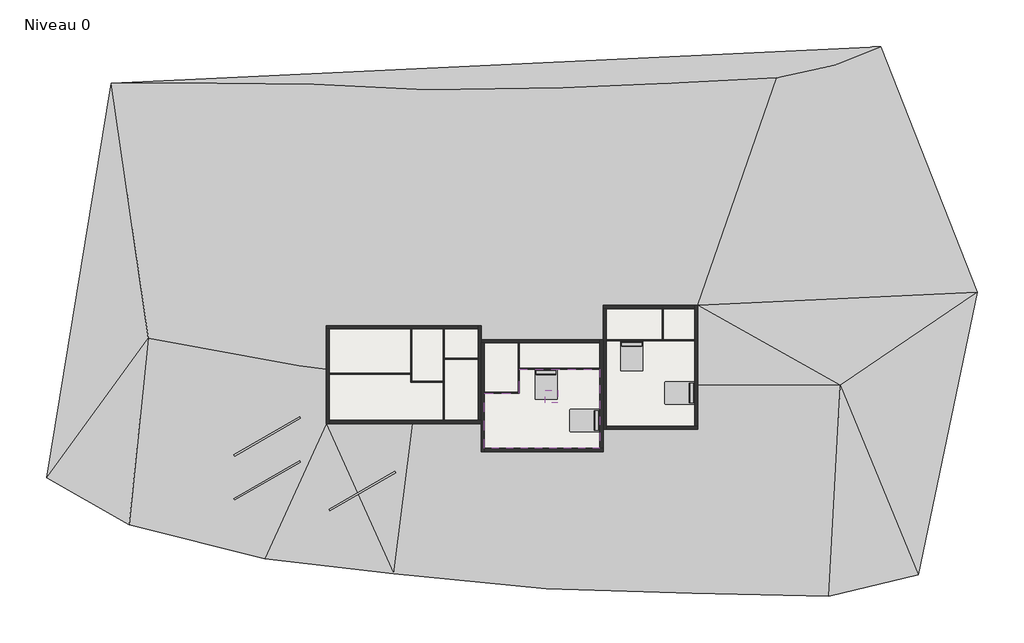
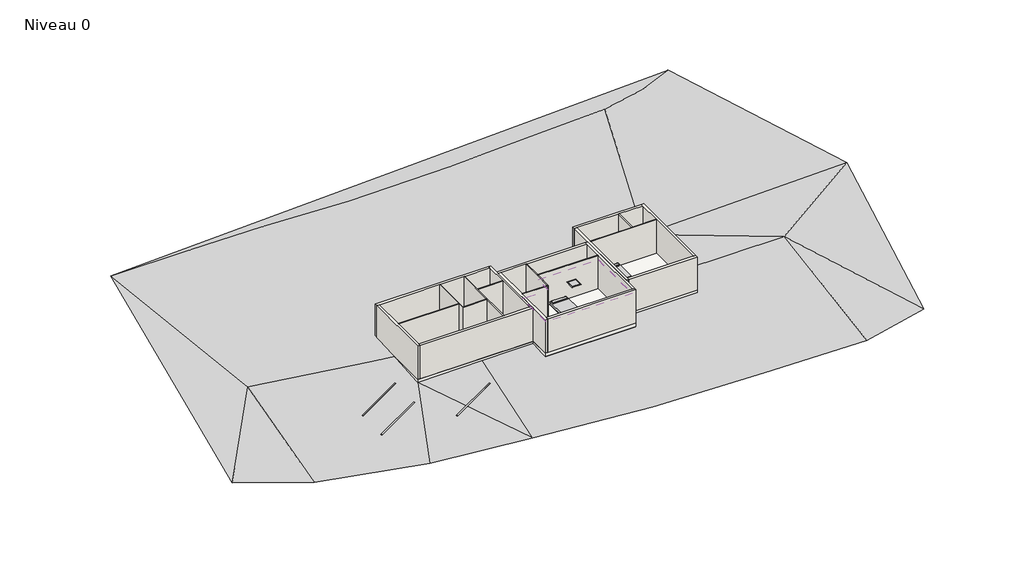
# One storey, incomplete: 22 walls, 5 proxies, 4 furniture elements, 1 covering, 1 slab.
"""IFC4 building model written with IfcOpenShell, lengths in millimetres."""

from ifc_helpers import new_model, si_unit, frame, origin, origin_with_axes, place, context, project, spatial, polyline, outline, extrude, faceted_brep, triangles, transform, mapped, element, save
from components import place_de_parking_5b8ad055, type_1_b38d5ac5, mob_lit_double_pmr_843ff842

model = new_model("IFC4")

# Units and contexts
model_context = context("Model", 3, world=origin())
ifc_project = project(units=[si_unit("LENGTHUNIT", "METRE", prefix="MILLI")], contexts=[model_context])

# Site, building, storey
site = spatial("IfcSite", under=ifc_project)
building = spatial("IfcBuilding", under=site)
storey = spatial("IfcBuildingStorey", under=building, Name="Niveau 0", Elevation=0.0)

# Proxies
placement = place(None, origin())
element("IfcBuildingElementProxy", 1, Name="Building Element Proxy", at=placement, inside=storey, context=model_context, shape_type="Tessellation", body=[
    triangles([(30189.0572937, 3729.3496902, 0.0), (24058.6291626, 19263.7416046, 1000.0000076), (-24568.1841064, 16942.5100342, 1000.0000076), (-28674.9776184, -7995.8421753, -1000.0000076), (-23437.3275513, -10971.7791321, -1000.0000076), (-14866.6286041, -13114.4541595, -1000.0000076), (-6712.561203, -14066.7541718, -1000.0000076), (2929.4749672, -15019.054184, -1000.0000076), (12154.8801727, -15316.6476471, -1000.0000076), (20785.0964172, -15495.2041901, -1000.0000076), (26439.3768677, -14126.2726318, -1000.0000076), (-1185.4947172, 1612.0061108, 190.8392053), (-1185.4947172, 727.4736917, 143.497918), (6514.5052689, 727.4736917, 150.2986657), (6514.5052689, 2898.5986542, 266.499994), (9481.9386749, 2898.5986542, 269.1208733), (11279.4184937, 2898.5986542, 264.9289598), (12514.5047333, 2898.5986542, 261.5638128), (12514.5047333, 1121.0185656, 168.7348859), (12514.5047333, -2163.0057632, 0.0), (12514.5047333, -4941.575116, -211.2395408), (11638.4733215, -4941.575116, -211.2395408), (9647.794249, -4941.575116, -216.1293404), (6514.5052689, -4941.575116, -220.1074769), (6514.5052689, -6348.785733, -328.3754142), (-1185.4947172, -6348.785733, -338.1516343), (-1185.4947172, -4579.7207497, -202.0433906), (-3505.7781624, -4579.7207497, -204.9893045), (-5507.0969925, -4579.7207497, -221.0181408), (-10985.494574, -4579.7207497, -278.0983413), (-10985.494574, -1137.3242563, 0.0), (-10985.494574, 1612.0061108, 148.7494688), (-5063.2572235, 1612.0061108, 190.0740812), (-3434.0668419, 1612.0061108, 188.8532255), (-22246.9536987, 812.9312662, 0.0), (-12723.9535767, -913.1122152, 0.0), (21499.3225891, -2163.0057632, 0.0), (-17902.0851837, 16942.5100342, 1000.0000076), (-11771.6547272, 16882.9915741, 1000.0000076), (-4629.405217, 16525.8784882, 1000.0000076), (4000.8121902, 16644.916571, 1000.0000076), (10666.9116943, 16942.5100342, 1000.0000076), (17511.5659973, 17299.6231201, 1000.0000076), (21142.2095032, 18073.3665894, 1000.0000076)], [[5, 6, 30], [4, 5, 35], [30, 36, 5], [31, 36, 30], [6, 7, 30], [7, 8, 26], [7, 26, 29], [26, 28, 29], [28, 26, 27], [7, 29, 30], [38, 35, 32], [36, 35, 5], [35, 38, 3], [39, 38, 32], [38, 39, 2], [3, 38, 2], [32, 35, 36], [35, 3, 4], [31, 32, 36], [32, 33, 40], [40, 34, 12], [34, 40, 33], [41, 40, 12], [12, 13, 14], [32, 40, 39], [39, 40, 41], [26, 8, 25], [23, 9, 22], [9, 23, 25], [23, 24, 25], [14, 15, 12], [21, 9, 10], [37, 10, 11], [20, 21, 37], [37, 21, 10], [11, 1, 37], [21, 22, 9], [25, 8, 9], [19, 20, 37], [15, 16, 42], [15, 42, 41], [42, 16, 17], [42, 17, 18], [41, 42, 2], [41, 12, 15], [37, 18, 19], [18, 37, 1], [18, 1, 43], [43, 44, 2], [44, 43, 1], [2, 44, 1], [43, 2, 42], [18, 43, 42], [41, 2, 39]], closed=False),
])
place_de_parking_shape = place_de_parking_5b8ad055(model_context)
element("IfcBuildingElementProxy", 2, Name="Place de parking : 4,8m x 2,4m - 60°", ObjectType="Place de parking : 4,8m x 2,4m - 60°", at=placement, inside=storey, context=model_context, shape_type="MappedRepresentation", body=[
    mapped(place_de_parking_shape, transform((-16804.0440092, -9364.4202092, 0.0), x_axis=(0.0, 1.0000000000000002, 0.0), y_axis=(-1.0000000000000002, 0.0, 0.0), z_axis=(0.0, 0.0, 1.0))),
])
element("IfcBuildingElementProxy", 3, Name="Place de parking : 4,8m x 2,4m - 60°", ObjectType="Place de parking : 4,8m x 2,4m - 60°", at=placement, inside=storey, context=model_context, shape_type="MappedRepresentation", body=[
    mapped(place_de_parking_shape, transform((-16804.0440092, -6593.4202092, 0.0), x_axis=(0.0, 1.0000000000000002, 0.0), y_axis=(-1.0000000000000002, 0.0, 0.0), z_axis=(0.0, 0.0, 1.0))),
])
element("IfcBuildingElementProxy", 4, Name="Place de parking : 4,8m x 2,4m - 60°", ObjectType="Place de parking : 4,8m x 2,4m - 60°", at=placement, inside=storey, context=model_context, shape_type="MappedRepresentation", body=[
    mapped(place_de_parking_shape, transform((-10785.4947256, -10042.5262978, 0.0), x_axis=(0.0, 1.0000000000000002, 0.0), y_axis=(-1.0000000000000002, 0.0, 0.0), z_axis=(0.0, 0.0, 1.0))),
])
type_1_shape = type_1_b38d5ac5(model_context)
element("IfcBuildingElementProxy", 5, Name="Trappe d'accès en plafond : Type 1", ObjectType="Trappe d'accès en plafond : Type 1", at=placement, inside=storey, context=model_context, shape_type="MappedRepresentation", body=[
    mapped(type_1_shape, transform((3264.5052744, -2872.5262978, -1400.0), x_axis=(1.0, 0.0, 0.0), y_axis=(0.0, 1.0, 0.0), z_axis=(0.0, 0.0, 1.0))),
])

# Covering
element("IfcCovering", 6, ObjectType="Plafond avec isolation", at=placement, inside=storey, context=model_context, shape_type="SweptSolid", body=[
    extrude(outline(polyline([(-985.4947256, -6148.7856024), (-985.4947256, -2672.5262978), (1214.5052744, -2672.5262978), (1214.5052744, -1142.5262978), (6314.5052744, -1142.5262978), (6314.5052744, -6148.7856024), (-985.4947256, -6148.7856024)]), holes=[polyline([(3664.5052744, -2472.5262978), (2864.5052744, -2472.5262978), (2864.5052744, -3272.5262978), (3664.5052744, -3272.5262978), (3664.5052744, -2472.5262978)])]), frame((0.0, 0.0, 2600.0), z_axis=(0.0, 0.0, 1.0), x_axis=(1.0, 0.0, 0.0)), (0.0, 0.0, 1.0), 70.0),
])

# Furniture
mob_lit_double_pmr_shape = mob_lit_double_pmr_843ff842(model_context)
element("IfcFurniture", 7, ObjectType="MOB- LIT DOUBLE PMR : 190x140 cm _V1+symboles", at=placement, inside=storey, context=model_context, shape_type="MappedRepresentation", body=[
    mapped(mob_lit_double_pmr_shape, transform((2643.0167498, -2046.9312159, -300.1595272), x_axis=(1.0, 0.0, 0.0), y_axis=(0.0, 1.0, 0.0), z_axis=(0.0, 0.0, 1.0))),
])
element("IfcFurniture", 8, ObjectType="MOB- LIT DOUBLE PMR : 190x140 cm _V2+symboles", at=placement, inside=storey, context=model_context, shape_type="MappedRepresentation", body=[
    mapped(mob_lit_double_pmr_shape, transform((5410.1003563, -4108.2322517, -300.1595272), x_axis=(0.0, -1.0000000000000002, 0.0), y_axis=(1.0000000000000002, 0.0, 0.0), z_axis=(0.0, 0.0, 1.0))),
])
element("IfcFurniture", 9, ObjectType="MOB- LIT DOUBLE PMR : 190x140 cm _V1", at=placement, inside=storey, context=model_context, shape_type="MappedRepresentation", body=[
    mapped(mob_lit_double_pmr_shape, transform((8063.0167498, -246.9312159, -300.1595272), x_axis=(1.0, 0.0, 0.0), y_axis=(0.0, 1.0, 0.0), z_axis=(0.0, 0.0, 1.0))),
])
element("IfcFurniture", 10, ObjectType="MOB- LIT DOUBLE PMR : 190x140 cm _V2", at=placement, inside=storey, context=model_context, shape_type="MappedRepresentation", body=[
    mapped(mob_lit_double_pmr_shape, transform((11410.1003563, -2370.0864206, -300.1595272), x_axis=(0.0, -1.0000000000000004, 0.0), y_axis=(1.0000000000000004, 0.0, 0.0), z_axis=(0.0, 0.0, 1.0))),
])

# Slab
element("IfcSlab", 11, ObjectType="Terre-plein Béton - 300 mm", at=placement, inside=storey, context=model_context, shape_type="SweptSolid", body=[
    extrude(outline(polyline([(-1185.4947256, 1612.0061152), (-1185.4947256, 727.4737022), (6514.5052744, 727.4737022), (6514.5052744, 2898.5987161), (12514.5052744, 2898.5987161), (12514.5052744, -4941.5749452), (6514.5052744, -4941.5749452), (6514.5052744, -6348.7856024), (-1185.4947256, -6348.7856024), (-1185.4947256, -4579.7207763), (-10985.4947256, -4579.7207763), (-10985.4947256, 1612.0061152), (-1185.4947256, 1612.0061152)])), frame((0.0, 0.0, -300.0), z_axis=(0.0, 0.0, 1.0), x_axis=(1.0, 0.0, 0.0)), (0.0, 0.0, 1.0), 300.0),
])

# Walls
element("IfcWall", 12, ObjectType="Générique - Ext. 200 mm", at=placement, inside=storey, context=model_context, shape_type="Brep", body=[
    faceted_brep([(-10985.4947256, 1412.0061152, 0.0), (-10785.4947256, 1412.0061152, 0.0), (-5655.4947256, 1412.0061152, 0.0), (-5585.4947256, 1412.0061152, 0.0), (-3585.4947256, 1412.0061152, 0.0), (-3515.4947256, 1412.0061152, 0.0), (-1385.4947256, 1412.0061152, 0.0), (-1385.4947256, 1412.0061152, 3000.0), (-3515.4947256, 1412.0061152, 3000.0), (-3585.4947256, 1412.0061152, 3000.0), (-5585.4947256, 1412.0061152, 3000.0), (-5655.4947256, 1412.0061152, 3000.0), (-10785.4947256, 1412.0061152, 3000.0), (-10985.4947256, 1412.0061152, 3000.0), (-10985.4947256, 1612.0061152, 0.0), (-10985.4947256, 1612.0061152, 3000.0), (-1385.4947256, 1612.0061152, 3000.0), (-1385.4947256, 1612.0061152, 0.0)], [[[0, 1, 2, 3, 4, 5, 6, 7, 8, 9, 10, 11, 12, 13]], [[14, 15, 16, 17]], [[6, 5, 4, 3, 2, 1, 0, 14, 17]], [[13, 12, 11, 10, 9, 8, 7, 16, 15]], [[0, 13, 15, 14]], [[7, 6, 17, 16]]]),
])
element("IfcWall", 13, ObjectType="Générique - Ext. 200 mm", at=placement, inside=storey, context=model_context, shape_type="Brep", body=[
    faceted_brep([(-10785.4947256, -4579.7207763, 0.0), (-10785.4947256, -4379.7207763, 0.0), (-10785.4947256, -1457.9938848, 0.0), (-10785.4947256, -1387.9938848, 0.0), (-10785.4947256, 1412.0061152, 0.0), (-10785.4947256, 1412.0061152, 3000.0), (-10785.4947256, -1387.9938848, 3000.0), (-10785.4947256, -1457.9938848, 3000.0), (-10785.4947256, -4379.7207763, 3000.0), (-10785.4947256, -4579.7207763, 3000.0), (-10985.4947256, -4579.7207763, 0.0), (-10985.4947256, -4579.7207763, 3000.0), (-10985.4947256, 1412.0061152, 3000.0), (-10985.4947256, 1412.0061152, 0.0)], [[[0, 1, 2, 3, 4, 5, 6, 7, 8, 9]], [[10, 11, 12, 13]], [[4, 3, 2, 1, 0, 10, 13]], [[9, 8, 7, 6, 5, 12, 11]], [[0, 9, 11, 10]], [[5, 4, 13, 12]]]),
])
element("IfcWall", 14, ObjectType="Générique - Ext. 200 mm", at=placement, inside=storey, context=model_context, shape_type="Brep", body=[
    faceted_brep([(-1185.4947256, -4379.7207763, 0.0), (-1385.4947256, -4379.7207763, 0.0), (-3515.4947256, -4379.7207763, 0.0), (-3585.4947256, -4379.7207763, 0.0), (-10785.4947256, -4379.7207763, 0.0), (-10785.4947256, -4379.7207763, 3000.0), (-3585.4947256, -4379.7207763, 3000.0), (-3515.4947256, -4379.7207763, 3000.0), (-1385.4947256, -4379.7207763, 3000.0), (-1185.4947256, -4379.7207763, 3000.0), (-1185.4947256, -4579.7207763, 0.0), (-1185.4947256, -4579.7207763, 3000.0), (-10785.4947256, -4579.7207763, 3000.0), (-10785.4947256, -4579.7207763, 0.0)], [[[0, 1, 2, 3, 4, 5, 6, 7, 8, 9]], [[10, 11, 12, 13]], [[4, 3, 2, 1, 0, 10, 13]], [[9, 8, 7, 6, 5, 12, 11]], [[0, 9, 11, 10]], [[5, 4, 13, 12]]]),
])
element("IfcWall", 15, ObjectType="Générique - Ext. 200 mm", at=placement, inside=storey, context=model_context, shape_type="Brep", body=[
    faceted_brep([(-1385.4947256, 1612.0061152, 0.0), (-1385.4947256, 1412.0061152, 0.0), (-1385.4947256, -442.5262978, 0.0), (-1385.4947256, -512.5262978, 0.0), (-1385.4947256, -4379.7207763, 0.0), (-1385.4947256, -4379.7207763, 3000.0), (-1385.4947256, -512.5262978, 3000.0), (-1385.4947256, -442.5262978, 3000.0), (-1385.4947256, 1412.0061152, 3000.0), (-1385.4947256, 1612.0061152, 3000.0), (-1185.4947256, 1612.0061152, 0.0), (-1185.4947256, 1612.0061152, 3000.0), (-1185.4947256, -4379.7207763, 3000.0), (-1185.4947256, -4379.7207763, 0.0)], [[[0, 1, 2, 3, 4, 5, 6, 7, 8, 9]], [[10, 11, 12, 13]], [[4, 3, 2, 1, 0, 10, 13]], [[9, 8, 7, 6, 5, 12, 11]], [[0, 9, 11, 10]], [[5, 4, 13, 12]]]),
])
element("IfcWall", 16, ObjectType="Générique - Ext. 200 mm", at=placement, inside=storey, context=model_context, shape_type="Brep", body=[
    faceted_brep([(-1185.4947256, 527.4737022, 0.0), (-985.4947256, 527.4737022, 0.0), (1144.5052744, 527.4737022, 0.0), (1214.5052744, 527.4737022, 0.0), (6314.5052744, 527.4737022, 0.0), (6314.5052744, 527.4737022, 3000.0), (1214.5052744, 527.4737022, 3000.0), (1144.5052744, 527.4737022, 3000.0), (-985.4947256, 527.4737022, 3000.0), (-1185.4947256, 527.4737022, 3000.0), (-1185.4947256, 727.4737022, 0.0), (-1185.4947256, 727.4737022, 3000.0), (6314.5052744, 727.4737022, 3000.0), (6314.5052744, 727.4737022, 0.0)], [[[0, 1, 2, 3, 4, 5, 6, 7, 8, 9]], [[10, 11, 12, 13]], [[4, 3, 2, 1, 0, 10, 13]], [[9, 8, 7, 6, 5, 12, 11]], [[0, 9, 11, 10]], [[5, 4, 13, 12]]]),
])
element("IfcWall", 17, ObjectType="Générique - Ext. 200 mm", at=placement, inside=storey, context=model_context, shape_type="Brep", body=[
    faceted_brep([(-985.4947256, -6348.7856024, 0.0), (-985.4947256, -6148.7856024, 0.0), (-985.4947256, -2672.5262978, 0.0), (-985.4947256, -2602.5262978, 0.0), (-985.4947256, 527.4737022, 0.0), (-985.4947256, 527.4737022, 3000.0), (-985.4947256, -2602.5262978, 3000.0), (-985.4947256, -2672.5262978, 3000.0), (-985.4947256, -6148.7856024, 3000.0), (-985.4947256, -6348.7856024, 3000.0), (-1185.4947256, -6348.7856024, 0.0), (-1185.4947256, -6348.7856024, 3000.0), (-1185.4947256, 527.4737022, 3000.0), (-1185.4947256, 527.4737022, 0.0)], [[[0, 1, 2, 3, 4, 5, 6, 7, 8, 9]], [[10, 11, 12, 13]], [[4, 3, 2, 1, 0, 10, 13]], [[9, 8, 7, 6, 5, 12, 11]], [[0, 9, 11, 10]], [[5, 4, 13, 12]]]),
])
element("IfcWall", 18, ObjectType="Générique - Ext. 200 mm", at=placement, inside=storey, context=model_context, shape_type="Brep", body=[
    faceted_brep([(6514.5052744, -6148.7856024, 0.0), (6314.5052744, -6148.7856024, 0.0), (-985.4947256, -6148.7856024, 0.0), (-985.4947256, -6148.7856024, 3000.0), (6314.5052744, -6148.7856024, 3000.0), (6514.5052744, -6148.7856024, 3000.0), (6514.5052744, -6348.7856024, 0.0), (6514.5052744, -6348.7856024, 3000.0), (-985.4947256, -6348.7856024, 3000.0), (-985.4947256, -6348.7856024, 0.0)], [[[0, 1, 2, 3, 4, 5]], [[6, 7, 8, 9]], [[2, 1, 0, 6, 9]], [[5, 4, 3, 8, 7]], [[0, 5, 7, 6]], [[3, 2, 9, 8]]]),
])
element("IfcWall", 19, ObjectType="Générique - Ext. 200 mm", at=placement, inside=storey, context=model_context, shape_type="Brep", body=[
    faceted_brep([(6314.5052744, 727.4737022, 0.0), (6314.5052744, 527.4737022, 0.0), (6314.5052744, -1072.5262978, 0.0), (6314.5052744, -1142.5262978, 0.0), (6314.5052744, -6148.7856024, 0.0), (6314.5052744, -6148.7856024, 3000.0), (6314.5052744, -1142.5262978, 3000.0), (6314.5052744, -1072.5262978, 3000.0), (6314.5052744, 527.4737022, 3000.0), (6314.5052744, 727.4737022, 3000.0), (6514.5052744, 727.4737022, 0.0), (6514.5052744, 727.4737022, 3000.0), (6514.5052744, -6148.7856024, 3000.0), (6514.5052744, -6148.7856024, 0.0)], [[[0, 1, 2, 3, 4, 5, 6, 7, 8, 9]], [[10, 11, 12, 13]], [[4, 3, 2, 1, 0, 10, 13]], [[9, 8, 7, 6, 5, 12, 11]], [[0, 9, 11, 10]], [[5, 4, 13, 12]]]),
])
element("IfcWall", 20, ObjectType="Générique - Ext. 200 mm", at=placement, inside=storey, context=model_context, shape_type="Brep", body=[
    faceted_brep([(6514.5052744, 2698.5987161, 0.0), (6714.5052744, 2698.5987161, 0.0), (10244.5052744, 2698.5987161, 0.0), (10314.5052744, 2698.5987161, 0.0), (12314.5052744, 2698.5987161, 0.0), (12314.5052744, 2698.5987161, 3000.0), (10314.5052744, 2698.5987161, 3000.0), (10244.5052744, 2698.5987161, 3000.0), (6714.5052744, 2698.5987161, 3000.0), (6514.5052744, 2698.5987161, 3000.0), (6514.5052744, 2898.5987161, 0.0), (6514.5052744, 2898.5987161, 3000.0), (12314.5052744, 2898.5987161, 3000.0), (12314.5052744, 2898.5987161, 0.0)], [[[0, 1, 2, 3, 4, 5, 6, 7, 8, 9]], [[10, 11, 12, 13]], [[4, 3, 2, 1, 0, 10, 13]], [[9, 8, 7, 6, 5, 12, 11]], [[0, 9, 11, 10]], [[5, 4, 13, 12]]]),
])
element("IfcWall", 21, ObjectType="Générique - Ext. 200 mm", at=placement, inside=storey, context=model_context, shape_type="Brep", body=[
    faceted_brep([(6714.5052744, -4941.5749452, 0.0), (6714.5052744, -4741.5749452, 0.0), (6714.5052744, 657.4737022, 0.0), (6714.5052744, 727.4737022, 0.0), (6714.5052744, 2698.5987161, 0.0), (6714.5052744, 2698.5987161, 3000.0), (6714.5052744, 727.4737022, 3000.0), (6714.5052744, 657.4737022, 3000.0), (6714.5052744, -4741.5749452, 3000.0), (6714.5052744, -4941.5749452, 3000.0), (6514.5052744, -4941.5749452, 0.0), (6514.5052744, -4941.5749452, 3000.0), (6514.5052744, 2698.5987161, 3000.0), (6514.5052744, 2698.5987161, 0.0)], [[[0, 1, 2, 3, 4, 5, 6, 7, 8, 9]], [[10, 11, 12, 13]], [[4, 3, 2, 1, 0, 10, 13]], [[9, 8, 7, 6, 5, 12, 11]], [[0, 9, 11, 10]], [[5, 4, 13, 12]]]),
])
element("IfcWall", 22, ObjectType="Générique - Ext. 200 mm", at=placement, inside=storey, context=model_context, shape_type="Brep", body=[
    faceted_brep([(12514.5052744, -4741.5749452, 0.0), (12314.5052744, -4741.5749452, 0.0), (6714.5052744, -4741.5749452, 0.0), (6714.5052744, -4741.5749452, 3000.0), (12314.5052744, -4741.5749452, 3000.0), (12514.5052744, -4741.5749452, 3000.0), (12514.5052744, -4941.5749452, 0.0), (12514.5052744, -4941.5749452, 3000.0), (6714.5052744, -4941.5749452, 3000.0), (6714.5052744, -4941.5749452, 0.0)], [[[0, 1, 2, 3, 4, 5]], [[6, 7, 8, 9]], [[2, 1, 0, 6, 9]], [[5, 4, 3, 8, 7]], [[0, 5, 7, 6]], [[3, 2, 9, 8]]]),
])
element("IfcWall", 23, ObjectType="Générique - Ext. 200 mm", at=placement, inside=storey, context=model_context, shape_type="Brep", body=[
    faceted_brep([(12314.5052744, 2898.5987161, 0.0), (12314.5052744, 2698.5987161, 0.0), (12314.5052744, 727.4737022, 0.0), (12314.5052744, 657.4737022, 0.0), (12314.5052744, -4741.5749452, 0.0), (12314.5052744, -4741.5749452, 3000.0), (12314.5052744, 657.4737022, 3000.0), (12314.5052744, 727.4737022, 3000.0), (12314.5052744, 2698.5987161, 3000.0), (12314.5052744, 2898.5987161, 3000.0), (12514.5052744, 2898.5987161, 0.0), (12514.5052744, 2898.5987161, 3000.0), (12514.5052744, -4741.5749452, 3000.0), (12514.5052744, -4741.5749452, 0.0)], [[[0, 1, 2, 3, 4, 5, 6, 7, 8, 9]], [[10, 11, 12, 13]], [[4, 3, 2, 1, 0, 10, 13]], [[9, 8, 7, 6, 5, 12, 11]], [[0, 9, 11, 10]], [[5, 4, 13, 12]]]),
])
element("IfcWall", 24, ObjectType="Générique - Int. 70 mm", at=placement, inside=storey, context=model_context, shape_type="Brep", body=[
    faceted_brep([(-5655.4947256, 1412.0061152, 0.0), (-5655.4947256, -1387.9938848, 0.0), (-5655.4947256, -1457.9938848, 0.0), (-5655.4947256, -1957.9938848, 0.0), (-5655.4947256, -1957.9938848, 3000.0), (-5655.4947256, -1457.9938848, 3000.0), (-5655.4947256, -1387.9938848, 3000.0), (-5655.4947256, 1412.0061152, 3000.0), (-5585.4947256, 1412.0061152, 0.0), (-5585.4947256, 1412.0061152, 3000.0), (-5585.4947256, -1887.9938848, 3000.0), (-5585.4947256, -1957.9938848, 3000.0), (-5585.4947256, -1957.9938848, 0.0), (-5585.4947256, -1887.9938848, 0.0)], [[[0, 1, 2, 3, 4, 5, 6, 7]], [[8, 9, 10, 11, 12, 13]], [[3, 2, 1, 0, 8, 13, 12]], [[7, 6, 5, 4, 11, 10, 9]], [[0, 7, 9, 8]], [[4, 3, 12, 11]]]),
])
element("IfcWall", 25, ObjectType="Générique - Int. 70 mm", at=placement, inside=storey, context=model_context, shape_type="SweptSolid", body=[
    extrude(outline(polyline([(-3585.4947256, -1957.9938848), (-5585.4947256, -1957.9938848), (-5585.4947256, -1887.9938848), (-3585.4947256, -1887.9938848), (-3585.4947256, -1957.9938848)])), origin_with_axes(), (0.0, 0.0, 1.0), 3000.0),
])
element("IfcWall", 26, ObjectType="Générique - Int. 70 mm", at=placement, inside=storey, context=model_context, shape_type="Brep", body=[
    faceted_brep([(-3515.4947256, -4379.7207763, 0.0), (-3515.4947256, -512.5262978, 0.0), (-3515.4947256, -442.5262978, 0.0), (-3515.4947256, 1412.0061152, 0.0), (-3515.4947256, 1412.0061152, 3000.0), (-3515.4947256, -442.5262978, 3000.0), (-3515.4947256, -512.5262978, 3000.0), (-3515.4947256, -4379.7207763, 3000.0), (-3585.4947256, -4379.7207763, 0.0), (-3585.4947256, -4379.7207763, 3000.0), (-3585.4947256, -1957.9938848, 3000.0), (-3585.4947256, -1887.9938848, 3000.0), (-3585.4947256, 1412.0061152, 3000.0), (-3585.4947256, 1412.0061152, 0.0), (-3585.4947256, -1887.9938848, 0.0), (-3585.4947256, -1957.9938848, 0.0)], [[[0, 1, 2, 3, 4, 5, 6, 7]], [[8, 9, 10, 11, 12, 13, 14, 15]], [[3, 2, 1, 0, 8, 15, 14, 13]], [[7, 6, 5, 4, 12, 11, 10, 9]], [[4, 3, 13, 12]], [[0, 7, 9, 8]]]),
])
element("IfcWall", 27, ObjectType="Générique - Int. 70 mm", at=placement, inside=storey, context=model_context, shape_type="SweptSolid", body=[
    extrude(outline(polyline([(-1385.4947256, -512.5262978), (-3515.4947256, -512.5262978), (-3515.4947256, -442.5262978), (-1385.4947256, -442.5262978), (-1385.4947256, -512.5262978)])), origin_with_axes(), (0.0, 0.0, 1.0), 3000.0),
])
element("IfcWall", 28, ObjectType="Générique - Int. 70 mm", at=placement, inside=storey, context=model_context, shape_type="Brep", body=[
    faceted_brep([(1144.5052744, 527.4737022, 0.0), (1144.5052744, -2602.5262978, 0.0), (1144.5052744, -2672.5262978, 0.0), (1144.5052744, -2672.5262978, 3000.0), (1144.5052744, -2602.5262978, 3000.0), (1144.5052744, 527.4737022, 3000.0), (1214.5052744, 527.4737022, 0.0), (1214.5052744, 527.4737022, 3000.0), (1214.5052744, -1072.5262978, 3000.0), (1214.5052744, -1142.5262978, 3000.0), (1214.5052744, -2672.5262978, 3000.0), (1214.5052744, -2672.5262978, 0.0), (1214.5052744, -1142.5262978, 0.0), (1214.5052744, -1072.5262978, 0.0)], [[[0, 1, 2, 3, 4, 5]], [[6, 7, 8, 9, 10, 11, 12, 13]], [[2, 1, 0, 6, 13, 12, 11]], [[5, 4, 3, 10, 9, 8, 7]], [[0, 5, 7, 6]], [[3, 2, 11, 10]]]),
])
element("IfcWall", 29, ObjectType="Générique - Int. 70 mm", at=placement, inside=storey, context=model_context, shape_type="SweptSolid", body=[
    extrude(outline(polyline([(-985.4947256, -2602.5262978), (1144.5052744, -2602.5262978), (1144.5052744, -2672.5262978), (-985.4947256, -2672.5262978), (-985.4947256, -2602.5262978)])), origin_with_axes(), (0.0, 0.0, 1.0), 3000.0),
])
element("IfcWall", 30, ObjectType="Générique - Int. 70 mm", at=placement, inside=storey, context=model_context, shape_type="SweptSolid", body=[
    extrude(outline(polyline([(6314.5052744, -1142.5262978), (1214.5052744, -1142.5262978), (1214.5052744, -1072.5262978), (6314.5052744, -1072.5262978), (6314.5052744, -1142.5262978)])), origin_with_axes(), (0.0, 0.0, 1.0), 3000.0),
])
element("IfcWall", 31, ObjectType="Générique - Int. 70 mm", at=placement, inside=storey, context=model_context, shape_type="Brep", body=[
    faceted_brep([(6714.5052744, 657.4737022, 0.0), (12314.5052744, 657.4737022, 0.0), (12314.5052744, 657.4737022, 3000.0), (6714.5052744, 657.4737022, 3000.0), (6714.5052744, 727.4737022, 0.0), (6714.5052744, 727.4737022, 3000.0), (10244.5052744, 727.4737022, 3000.0), (10314.5052744, 727.4737022, 3000.0), (12314.5052744, 727.4737022, 3000.0), (12314.5052744, 727.4737022, 0.0), (10314.5052744, 727.4737022, 0.0), (10244.5052744, 727.4737022, 0.0)], [[[0, 1, 2, 3]], [[4, 5, 6, 7, 8, 9, 10, 11]], [[1, 0, 4, 11, 10, 9]], [[3, 2, 8, 7, 6, 5]], [[0, 3, 5, 4]], [[2, 1, 9, 8]]]),
])
element("IfcWall", 32, ObjectType="Générique - Int. 70 mm", at=placement, inside=storey, context=model_context, shape_type="SweptSolid", body=[
    extrude(outline(polyline([(10244.5052744, 727.4737022), (10244.5052744, 2698.5987161), (10314.5052744, 2698.5987161), (10314.5052744, 727.4737022), (10244.5052744, 727.4737022)])), origin_with_axes(), (0.0, 0.0, 1.0), 3000.0),
])
element("IfcWall", 33, ObjectType="Générique - Int. 70 mm", at=placement, inside=storey, context=model_context, shape_type="SweptSolid", body=[
    extrude(outline(polyline([(-10785.4947256, -1387.9938848), (-5655.4947256, -1387.9938848), (-5655.4947256, -1457.9938848), (-10785.4947256, -1457.9938848), (-10785.4947256, -1387.9938848)])), origin_with_axes(), (0.0, 0.0, 1.0), 3000.0),
])

save(model, "model.ifc")
